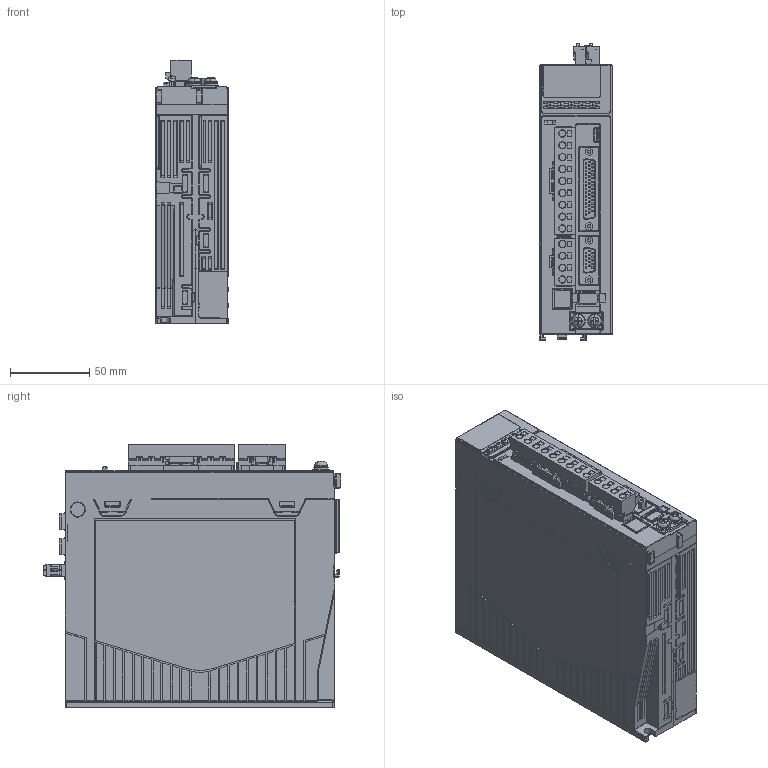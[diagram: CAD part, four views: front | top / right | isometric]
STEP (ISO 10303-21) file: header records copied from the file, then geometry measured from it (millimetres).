
FILE_DESCRIPTION((''),'2;1');
FILE_NAME('SV670P-SIZE-A-FS_ASM','2024-02-03T',('10009991'),(''),'CREO PARAMETRIC BY PTC INC, 2015290','CREO PARAMETRIC BY PTC INC, 2015290','');
FILE_SCHEMA(('AUTOMOTIVE_DESIGN { 1 0 10303 214 1 1 1 1 }'));
Products named in the file (9): MSBR-7_1; MSBR-6_1; MSBR-5_1; MSBR-4_1; MSBR-3_1; MSBR-2_1; MSBR-1_1; PXC_1707854_01_FMCD-4PIN_3_1; SV670P-SIZE-A-FS_ASM
Assembly tree (8 placements, depth 2):
  SV670P-SIZE-A-FS_ASM
    MSBR-7_1
    MSBR-6_1
    MSBR-5_1
    MSBR-4_1
    MSBR-3_1
    MSBR-2_1
    MSBR-1_1
    PXC_1707854_01_FMCD-4PIN_3_1
Bounding box: 45.5 x 187.46 x 166.2 mm (x, y, z)
Volume: 1159907.2 mm3; surface area: 108813.4 mm2
Topology: 8 solids, 9 shells, 4602 faces, 12202 edges, 7769 vertices
Faces by surface type: plane 2774, cylinder 1112, bspline 315, extrusion 136, torus 126, cone 76, sphere 63
Entity records: 214475 total; most frequent: CARTESIAN_POINT 67344, ORIENTED_EDGE 24244, DIRECTION 20904, EDGE_CURVE 12122, VECTOR 8576, LINE 8440, VERTEX_POINT 7769, AXIS2_PLACEMENT_3D 6164
